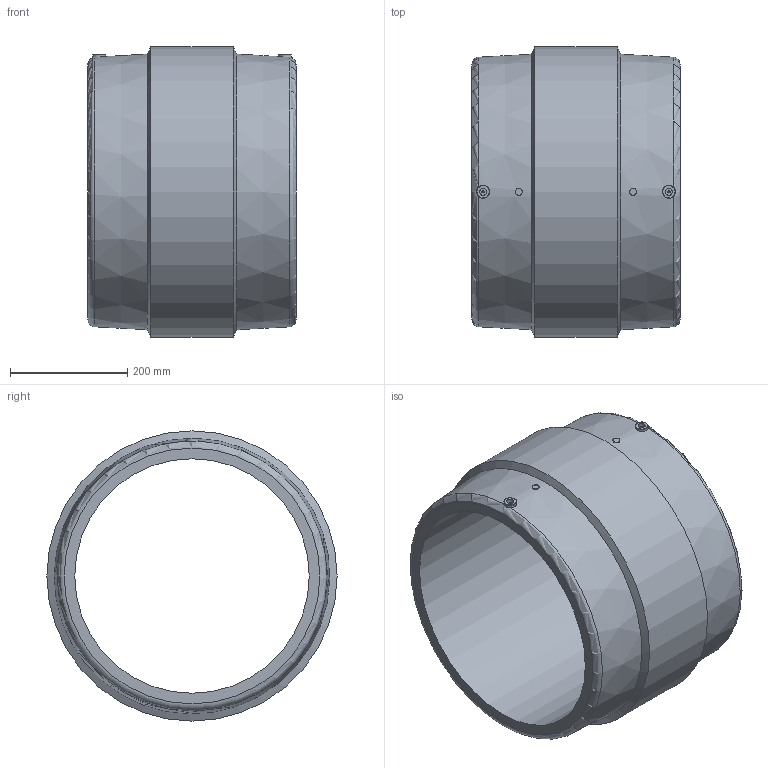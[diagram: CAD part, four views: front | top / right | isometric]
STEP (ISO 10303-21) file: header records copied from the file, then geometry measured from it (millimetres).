
FILE_DESCRIPTION(/* description */ ('Unknown'),/* implementation_level */ '2;1');
FILE_NAME(/* name */ 'MP400C',/* time_stamp */ '2021-02-11T09:07:14+01:00',/* author */ ('Unknown'),/* organization */ ('Unknown'),/* preprocessor_version */ 'ST-DEVELOPER v16.7',/* originating_system */ 'Solid Edge',/* authorisation */ 'Unknown');
FILE_SCHEMA (('AUTOMOTIVE_DESIGN {1 0 10303 214 3 1 1}'));
Length unit declared in the file: millimetre
Products named in the file (1): MP400C
Bounding box: 355 x 495 x 495 mm (x, y, z)
Volume: 18831841.8 mm3; surface area: 1070685.8 mm2
Topology: 1 solids, 1 shells, 28 faces, 59 edges, 38 vertices
Faces by surface type: plane 10, cylinder 8, cone 6, torus 4
Full cylindrical faces by diameter (mm): 4 x2, 12 x4, 400 x1, 495 x1
Entity records: 648 total; most frequent: CARTESIAN_POINT 143, DIRECTION 106, ORIENTED_EDGE 60, EDGE_LOOP 54, FACE_BOUND 54, AXIS2_PLACEMENT_3D 53, EDGE_CURVE 30, VERTEX_POINT 28
